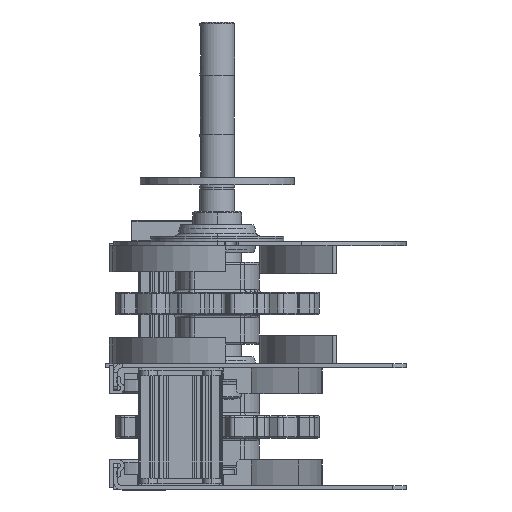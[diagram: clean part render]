
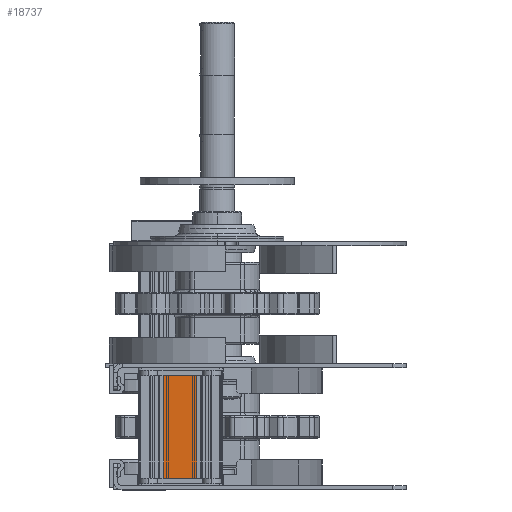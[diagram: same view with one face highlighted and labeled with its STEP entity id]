
A CAD part, left-side view. The second image highlights one B-rep face of the part: STEP entity #18737.
In plain terms, the highlighted planar face has unit normal (-1, 0, 0).
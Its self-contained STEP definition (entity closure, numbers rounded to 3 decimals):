
#1320 = FACE_OUTER_BOUND ( 'NONE', #18518, .T. ) ;
#4247 = EDGE_CURVE ( 'NONE', #36869, #36865, #10555, .T. ) ;
#4248 = EDGE_CURVE ( 'NONE', #36865, #36879, #10563, .T. ) ;
#4250 = EDGE_CURVE ( 'NONE', #36931, #36879, #10565, .T. ) ;
#4254 = EDGE_CURVE ( 'NONE', #36869, #36931, #10569, .T. ) ;
#7373 = CARTESIAN_POINT ( 'NONE',  ( -326.655, 75.21, -7. ) ) ;
#7375 = CARTESIAN_POINT ( 'NONE',  ( -326.655, 98.91, -7. ) ) ;
#7380 = CARTESIAN_POINT ( 'NONE',  ( -326.655, 75.21, -80. ) ) ;
#7407 = CARTESIAN_POINT ( 'NONE',  ( -326.655, 98.91, -80. ) ) ;
#10555 = LINE ( 'NONE', #39211, #10564 ) ;
#10563 = LINE ( 'NONE', #39235, #10566 ) ;
#10564 = VECTOR ( 'NONE', #39233, 1000. ) ;
#10565 = LINE ( 'NONE', #39240, #10568 ) ;
#10566 = VECTOR ( 'NONE', #39238, 1000. ) ;
#10568 = VECTOR ( 'NONE', #39244, 1000. ) ;
#10569 = LINE ( 'NONE', #39249, #10572 ) ;
#10572 = VECTOR ( 'NONE', #39251, 1000. ) ;
#18518 = EDGE_LOOP ( 'NONE', ( #41356, #41358, #41360, #41362 ) ) ;
#18737 = ADVANCED_FACE ( 'NONE', ( #1320 ), #37836, .F. ) ;
#36865 = VERTEX_POINT ( 'NONE', #7373 ) ;
#36869 = VERTEX_POINT ( 'NONE', #7375 ) ;
#36879 = VERTEX_POINT ( 'NONE', #7380 ) ;
#36931 = VERTEX_POINT ( 'NONE', #7407 ) ;
#37836 = PLANE ( 'NONE',  #55365 ) ;
#37837 = CARTESIAN_POINT ( 'NONE',  ( -326.655, 75.21, -7. ) ) ;
#37842 = DIRECTION ( 'NONE',  ( 1., 0., 0. ) ) ;
#37843 = DIRECTION ( 'NONE',  ( 0., 1., 0. ) ) ;
#39211 = CARTESIAN_POINT ( 'NONE',  ( -326.655, 75.21, -7. ) ) ;
#39233 = DIRECTION ( 'NONE',  ( 0., -1., 0. ) ) ;
#39235 = CARTESIAN_POINT ( 'NONE',  ( -326.655, 75.21, -7. ) ) ;
#39238 = DIRECTION ( 'NONE',  ( 0., 0., -1. ) ) ;
#39240 = CARTESIAN_POINT ( 'NONE',  ( -326.655, 75.21, -80. ) ) ;
#39244 = DIRECTION ( 'NONE',  ( 0., -1., 0. ) ) ;
#39249 = CARTESIAN_POINT ( 'NONE',  ( -326.655, 98.91, -7. ) ) ;
#39251 = DIRECTION ( 'NONE',  ( 0., 0., -1. ) ) ;
#41356 = ORIENTED_EDGE ( 'NONE', *, *, #4250, .T. ) ;
#41358 = ORIENTED_EDGE ( 'NONE', *, *, #4248, .F. ) ;
#41360 = ORIENTED_EDGE ( 'NONE', *, *, #4247, .F. ) ;
#41362 = ORIENTED_EDGE ( 'NONE', *, *, #4254, .T. ) ;
#55365 = AXIS2_PLACEMENT_3D ( 'NONE', #37837, #37842, #37843 ) ;
